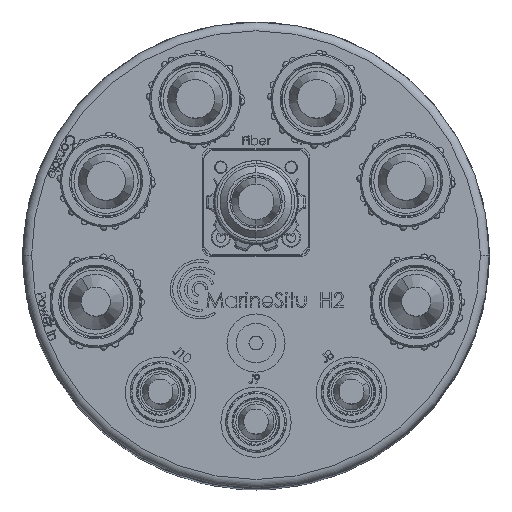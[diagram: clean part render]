
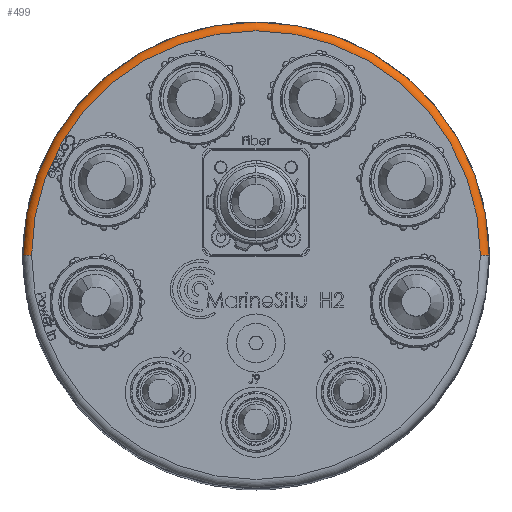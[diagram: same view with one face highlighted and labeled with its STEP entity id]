
A CAD part, top view. The second image highlights one B-rep face of the part: STEP entity #499.
In plain terms, the highlighted toroidal (fillet/blend) face has major radius 81.026 mm and minor radius 3.175 mm.
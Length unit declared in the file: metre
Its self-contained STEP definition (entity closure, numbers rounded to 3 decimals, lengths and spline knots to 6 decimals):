
#344 = DIRECTION ( 'NONE',  ( 0., 0., -1. ) ) ;
#499 = ADVANCED_FACE ( 'NONE', ( #9639 ), #74541, .T. ) ;
#972 = DIRECTION ( 'NONE',  ( 0., -1., 0. ) ) ;
#3509 = EDGE_CURVE ( 'NONE', #101768, #67025, #27595, .T. ) ;
#5141 = CARTESIAN_POINT ( 'NONE',  ( -0.081026, 0., 0.174625 ) ) ;
#7033 = EDGE_CURVE ( 'NONE', #91138, #90616, #63804, .T. ) ;
#9639 = FACE_OUTER_BOUND ( 'NONE', #121591, .T. ) ;
#20665 = ORIENTED_EDGE ( 'NONE', *, *, #48380, .F. ) ;
#27595 = CIRCLE ( 'NONE', #32202, 0.003175 ) ;
#32202 = AXIS2_PLACEMENT_3D ( 'NONE', #70485, #972, #34991 ) ;
#34991 = DIRECTION ( 'NONE',  ( 0., 0., -1. ) ) ;
#36189 = ORIENTED_EDGE ( 'NONE', *, *, #100834, .F. ) ;
#46704 = CIRCLE ( 'NONE', #65876, 0.084201 ) ;
#48380 = EDGE_CURVE ( 'NONE', #67025, #90616, #58306, .T. ) ;
#58306 = CIRCLE ( 'NONE', #110203, 0.081026 ) ;
#63804 = CIRCLE ( 'NONE', #80361, 0.003175 ) ;
#64845 = ORIENTED_EDGE ( 'NONE', *, *, #7033, .T. ) ;
#65876 = AXIS2_PLACEMENT_3D ( 'NONE', #101679, #344, #99503 ) ;
#67025 = VERTEX_POINT ( 'NONE', #115641 ) ;
#70485 = CARTESIAN_POINT ( 'NONE',  ( 0.081026, 0., 0.174625 ) ) ;
#74541 = TOROIDAL_SURFACE ( 'NONE', #100600, 0.081026, 0.003175 ) ;
#80361 = AXIS2_PLACEMENT_3D ( 'NONE', #5141, #127157, #114605 ) ;
#80640 = CARTESIAN_POINT ( 'NONE',  ( 0., 0., 0.174625 ) ) ;
#85592 = CARTESIAN_POINT ( 'NONE',  ( -0.084201, 0., 0.174625 ) ) ;
#86312 = DIRECTION ( 'NONE',  ( 0., 0., 1. ) ) ;
#90616 = VERTEX_POINT ( 'NONE', #142907 ) ;
#91138 = VERTEX_POINT ( 'NONE', #85592 ) ;
#92464 = DIRECTION ( 'NONE',  ( 1., 0., 0. ) ) ;
#93211 = DIRECTION ( 'NONE',  ( 0., 0., 1. ) ) ;
#94687 = CARTESIAN_POINT ( 'NONE',  ( 0., 0., 0.1778 ) ) ;
#98616 = CARTESIAN_POINT ( 'NONE',  ( 0.084201, 0., 0.174625 ) ) ;
#99503 = DIRECTION ( 'NONE',  ( 1., 0., 0. ) ) ;
#100600 = AXIS2_PLACEMENT_3D ( 'NONE', #80640, #93211, #92464 ) ;
#100834 = EDGE_CURVE ( 'NONE', #91138, #101768, #46704, .T. ) ;
#101679 = CARTESIAN_POINT ( 'NONE',  ( 0., 0., 0.174625 ) ) ;
#101768 = VERTEX_POINT ( 'NONE', #98616 ) ;
#104989 = ORIENTED_EDGE ( 'NONE', *, *, #3509, .F. ) ;
#110203 = AXIS2_PLACEMENT_3D ( 'NONE', #94687, #86312, #144003 ) ;
#114605 = DIRECTION ( 'NONE',  ( -1., 0., 0. ) ) ;
#115641 = CARTESIAN_POINT ( 'NONE',  ( 0.081026, 0., 0.1778 ) ) ;
#121591 = EDGE_LOOP ( 'NONE', ( #36189, #64845, #20665, #104989 ) ) ;
#127157 = DIRECTION ( 'NONE',  ( 0., 1., 0. ) ) ;
#142907 = CARTESIAN_POINT ( 'NONE',  ( -0.081026, 0., 0.1778 ) ) ;
#144003 = DIRECTION ( 'NONE',  ( 1., 0., 0. ) ) ;
